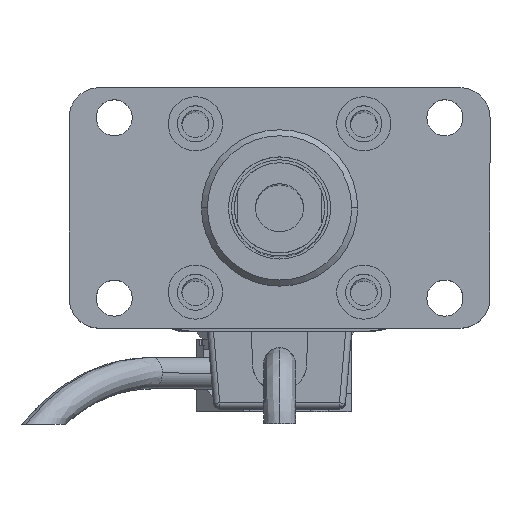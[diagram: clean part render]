
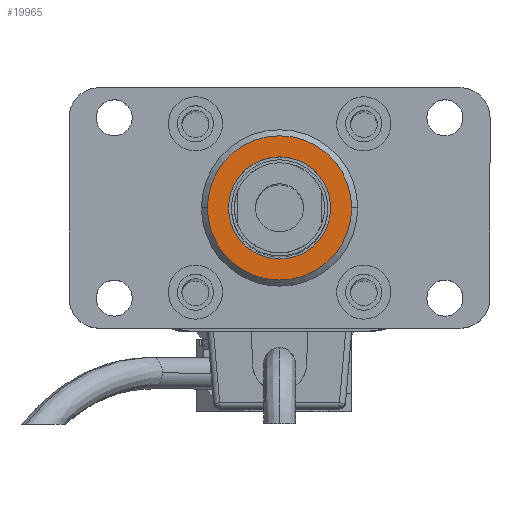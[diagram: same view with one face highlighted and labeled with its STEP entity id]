
A CAD part, top view. The second image highlights one B-rep face of the part: STEP entity #19965.
In plain terms, the highlighted planar face has unit normal (0, 0, 1) as drawn and (0, 0, -1) by its records, which use the part's own axes.
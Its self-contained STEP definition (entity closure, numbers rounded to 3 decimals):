
#580 = DIRECTION ( 'NONE',  ( -1., 0., 0. ) ) ;
#959 = CARTESIAN_POINT ( 'NONE',  ( -12., 0., -3. ) ) ;
#1008 = AXIS2_PLACEMENT_3D ( 'NONE', #26811, #22464, #580 ) ;
#3883 = DIRECTION ( 'NONE',  ( 0., 0., -1. ) ) ;
#4218 = DIRECTION ( 'NONE',  ( 0., 0., -1. ) ) ;
#4330 = EDGE_CURVE ( 'NONE', #8861, #22394, #20700, .T. ) ;
#4331 = FACE_BOUND ( 'NONE', #14206, .T. ) ;
#5392 = CARTESIAN_POINT ( 'NONE',  ( 0., 0., -3. ) ) ;
#5976 = CARTESIAN_POINT ( 'NONE',  ( 0., 0., -3. ) ) ;
#6068 = AXIS2_PLACEMENT_3D ( 'NONE', #19594, #4218, #19406 ) ;
#7128 = AXIS2_PLACEMENT_3D ( 'NONE', #15878, #9565, #26753 ) ;
#7149 = EDGE_CURVE ( 'NONE', #22394, #8861, #9680, .T. ) ;
#7463 = DIRECTION ( 'NONE',  ( -1., 0., 0. ) ) ;
#7664 = CIRCLE ( 'NONE', #7128, 8.5 ) ;
#8861 = VERTEX_POINT ( 'NONE', #959 ) ;
#9416 = CARTESIAN_POINT ( 'NONE',  ( 8.5, 0., -3. ) ) ;
#9565 = DIRECTION ( 'NONE',  ( 0., 0., -1. ) ) ;
#9680 = CIRCLE ( 'NONE', #6068, 12. ) ;
#10331 = DIRECTION ( 'NONE',  ( -1., 0., 0. ) ) ;
#11419 = PLANE ( 'NONE',  #1008 ) ;
#11934 = DIRECTION ( 'NONE',  ( 0., 0., -1. ) ) ;
#12376 = EDGE_CURVE ( 'NONE', #25901, #21914, #27718, .T. ) ;
#13444 = AXIS2_PLACEMENT_3D ( 'NONE', #5976, #3883, #10331 ) ;
#14034 = EDGE_CURVE ( 'NONE', #21914, #25901, #7664, .T. ) ;
#14206 = EDGE_LOOP ( 'NONE', ( #14713, #25934 ) ) ;
#14713 = ORIENTED_EDGE ( 'NONE', *, *, #14034, .F. ) ;
#15878 = CARTESIAN_POINT ( 'NONE',  ( 0., 0., -3. ) ) ;
#16760 = AXIS2_PLACEMENT_3D ( 'NONE', #5392, #11934, #7463 ) ;
#17853 = ORIENTED_EDGE ( 'NONE', *, *, #7149, .T. ) ;
#18011 = CARTESIAN_POINT ( 'NONE',  ( 12., 0., -3. ) ) ;
#18233 = EDGE_LOOP ( 'NONE', ( #17853, #19346 ) ) ;
#19346 = ORIENTED_EDGE ( 'NONE', *, *, #4330, .T. ) ;
#19406 = DIRECTION ( 'NONE',  ( -1., 0., 0. ) ) ;
#19594 = CARTESIAN_POINT ( 'NONE',  ( 0., 0., -3. ) ) ;
#19965 = ADVANCED_FACE ( 'NONE', ( #25917, #4331 ), #11419, .T. ) ;
#20700 = CIRCLE ( 'NONE', #16760, 12. ) ;
#21914 = VERTEX_POINT ( 'NONE', #9416 ) ;
#22394 = VERTEX_POINT ( 'NONE', #18011 ) ;
#22464 = DIRECTION ( 'NONE',  ( 0., 0., -1. ) ) ;
#25901 = VERTEX_POINT ( 'NONE', #26746 ) ;
#25917 = FACE_OUTER_BOUND ( 'NONE', #18233, .T. ) ;
#25934 = ORIENTED_EDGE ( 'NONE', *, *, #12376, .F. ) ;
#26746 = CARTESIAN_POINT ( 'NONE',  ( -8.5, 0., -3. ) ) ;
#26753 = DIRECTION ( 'NONE',  ( -1., 0., 0. ) ) ;
#26811 = CARTESIAN_POINT ( 'NONE',  ( 0., 0., -3. ) ) ;
#27718 = CIRCLE ( 'NONE', #13444, 8.5 ) ;
